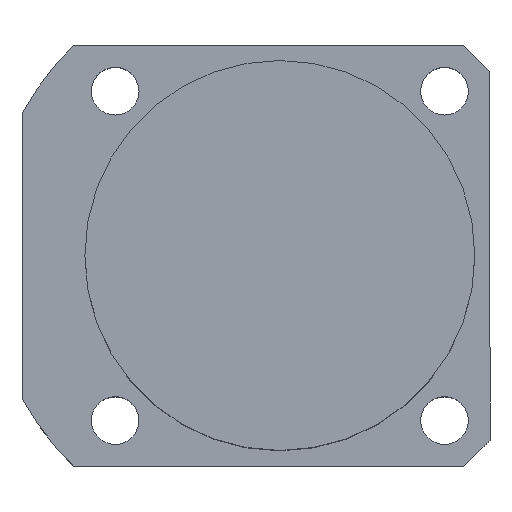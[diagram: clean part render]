
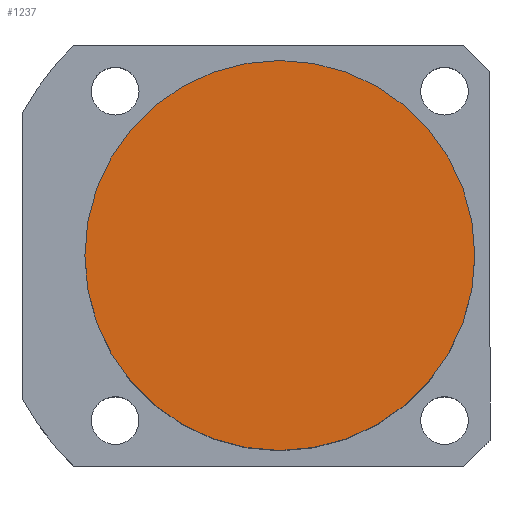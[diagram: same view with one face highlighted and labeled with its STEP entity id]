
A CAD part, top view. The second image highlights one B-rep face of the part: STEP entity #1237.
In plain terms, the highlighted planar face has unit normal (0, 0, 1).
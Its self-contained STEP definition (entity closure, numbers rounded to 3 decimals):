
#161 = DIRECTION ( 'NONE',  ( 1., 0., 0. ) ) ;
#236 = AXIS2_PLACEMENT_3D ( 'NONE', #1358, #1627, #813 ) ;
#237 = EDGE_CURVE ( 'NONE', #1232, #1518, #1527, .T. ) ;
#256 = AXIS2_PLACEMENT_3D ( 'NONE', #1724, #896, #754 ) ;
#301 = DIRECTION ( 'NONE',  ( 0., 0., 1. ) ) ;
#354 = ORIENTED_EDGE ( 'NONE', *, *, #237, .T. ) ;
#566 = EDGE_CURVE ( 'NONE', #1518, #1232, #1679, .T. ) ;
#703 = AXIS2_PLACEMENT_3D ( 'NONE', #801, #301, #161 ) ;
#754 = DIRECTION ( 'NONE',  ( 1., 0., 0. ) ) ;
#801 = CARTESIAN_POINT ( 'NONE',  ( 0., 0., 64.5 ) ) ;
#813 = DIRECTION ( 'NONE',  ( 1., 0., 0. ) ) ;
#857 = EDGE_LOOP ( 'NONE', ( #354, #1196 ) ) ;
#896 = DIRECTION ( 'NONE',  ( 0., 0., 1. ) ) ;
#1160 = CARTESIAN_POINT ( 'NONE',  ( 45., 0., 64.5 ) ) ;
#1196 = ORIENTED_EDGE ( 'NONE', *, *, #566, .T. ) ;
#1207 = CARTESIAN_POINT ( 'NONE',  ( -45., 0., 64.5 ) ) ;
#1232 = VERTEX_POINT ( 'NONE', #1207 ) ;
#1237 = ADVANCED_FACE ( 'NONE', ( #1570 ), #1350, .T. ) ;
#1350 = PLANE ( 'NONE',  #703 ) ;
#1358 = CARTESIAN_POINT ( 'NONE',  ( 0., 0., 64.5 ) ) ;
#1518 = VERTEX_POINT ( 'NONE', #1160 ) ;
#1527 = CIRCLE ( 'NONE', #236, 45. ) ;
#1570 = FACE_OUTER_BOUND ( 'NONE', #857, .T. ) ;
#1627 = DIRECTION ( 'NONE',  ( 0., 0., 1. ) ) ;
#1679 = CIRCLE ( 'NONE', #256, 45. ) ;
#1724 = CARTESIAN_POINT ( 'NONE',  ( 0., 0., 64.5 ) ) ;
